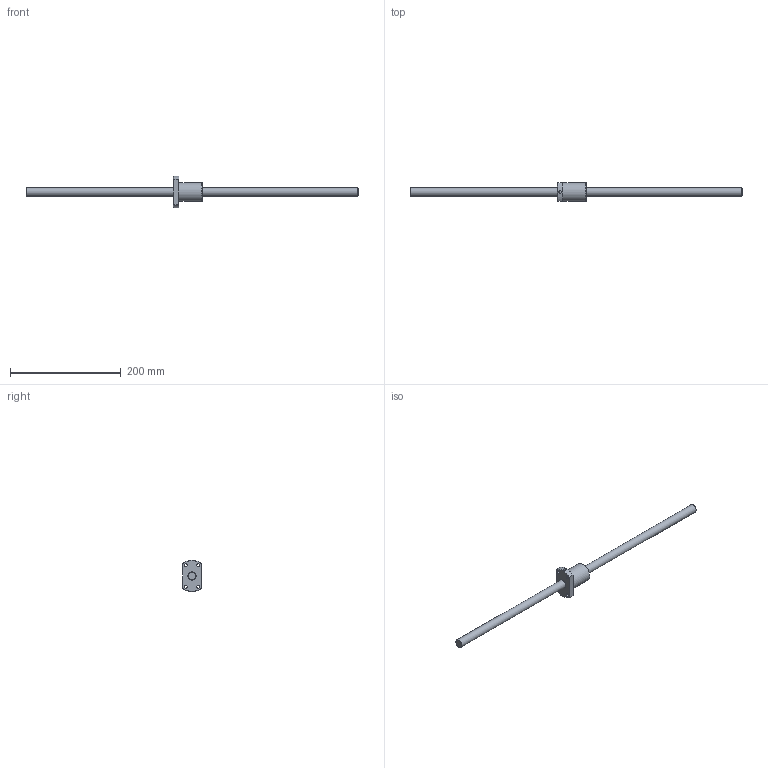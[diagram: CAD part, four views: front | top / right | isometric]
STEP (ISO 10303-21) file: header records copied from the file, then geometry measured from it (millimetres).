
FILE_DESCRIPTION((''),'2;1');
FILE_NAME('D:\製品 (図面)\カタログ用3D\ネジ関連\STEP形式\RBSMA\RBSMA1510-0600.stp','2010-06-02T14:42:56',('Tsuchiya'),(''),'Autodesk Inventor 10','Autodesk Inventor 10','');
FILE_SCHEMA(('AUTOMOTIVE_DESIGN { 1 0 10303 214 1 1 1 1 }'));
Length unit declared in the file: millimetre
Products named in the file (3): RBSMA1510-0600; RBSMA1510-06001; RBSMA1510-06002
Assembly tree (2 placements, depth 2):
  RBSMA1510-0600
    RBSMA1510-06001
    RBSMA1510-06002
Bounding box: 600 x 34 x 57 mm (x, y, z)
Volume: 151738.8 mm3; surface area: 41172.4 mm2
Topology: 2 solids, 2 shells, 25 faces, 63 edges, 42 vertices
Faces by surface type: cylinder 9, plane 8, cone 7, bspline 1
Full cylindrical faces by diameter (mm): 5.5 x4, 15 x2, 34 x1
Entity records: 891 total; most frequent: CARTESIAN_POINT 276, DIRECTION 120, ORIENTED_EDGE 94, AXIS2_PLACEMENT_3D 55, EDGE_LOOP 48, EDGE_CURVE 47, VERTEX_POINT 37, CIRCLE 26
